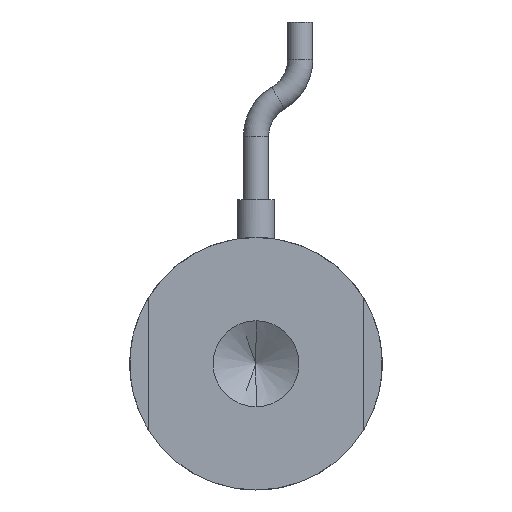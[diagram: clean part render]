
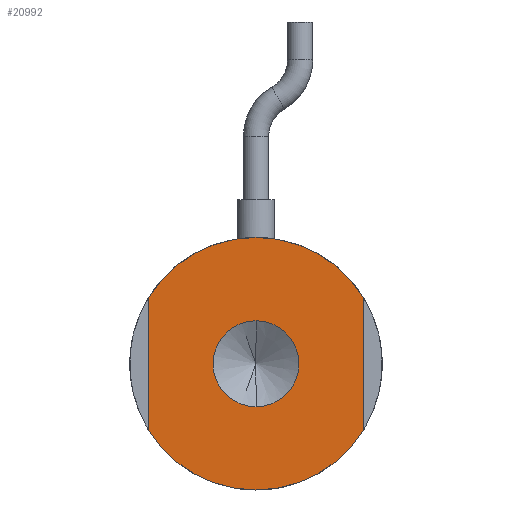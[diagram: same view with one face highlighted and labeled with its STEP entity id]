
A CAD part, front view. The second image highlights one B-rep face of the part: STEP entity #20992.
In plain terms, the highlighted planar face has unit normal (0, -1, 0).
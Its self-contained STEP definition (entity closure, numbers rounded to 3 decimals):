
#57 = DIRECTION ( 'NONE',  ( 0., 0., -1. ) ) ;
#171 = EDGE_CURVE ( 'NONE', #11944, #38820, #26560, .T. ) ;
#534 = DIRECTION ( 'NONE',  ( 0., 0., 1. ) ) ;
#1835 = CARTESIAN_POINT ( 'NONE',  ( 0., 0., 0. ) ) ;
#2597 = ORIENTED_EDGE ( 'NONE', *, *, #11811, .F. ) ;
#4148 = CARTESIAN_POINT ( 'NONE',  ( -8.5, 0., 0. ) ) ;
#5217 = FACE_BOUND ( 'NONE', #39386, .T. ) ;
#5394 = DIRECTION ( 'NONE',  ( 0., 0., -1. ) ) ;
#6270 = AXIS2_PLACEMENT_3D ( 'NONE', #42603, #21446, #534 ) ;
#6437 = ORIENTED_EDGE ( 'NONE', *, *, #8902, .F. ) ;
#7027 = EDGE_CURVE ( 'NONE', #14301, #41897, #18231, .T. ) ;
#7156 = DIRECTION ( 'NONE',  ( 0., 0., 1. ) ) ;
#7263 = CIRCLE ( 'NONE', #31694, 10. ) ;
#7662 = DIRECTION ( 'NONE',  ( 0., 0., 1. ) ) ;
#7794 = CARTESIAN_POINT ( 'NONE',  ( -8.5, 0., -5.268 ) ) ;
#8027 = VECTOR ( 'NONE', #23550, 1000. ) ;
#8650 = CARTESIAN_POINT ( 'NONE',  ( 8.5, 0., 0. ) ) ;
#8902 = EDGE_CURVE ( 'NONE', #41897, #22201, #12745, .T. ) ;
#9493 = VERTEX_POINT ( 'NONE', #42468 ) ;
#9675 = ORIENTED_EDGE ( 'NONE', *, *, #42271, .F. ) ;
#11630 = CARTESIAN_POINT ( 'NONE',  ( 0., 0., 0. ) ) ;
#11811 = EDGE_CURVE ( 'NONE', #22201, #9493, #41243, .T. ) ;
#11838 = CARTESIAN_POINT ( 'NONE',  ( 8.5, 0., 5.268 ) ) ;
#11944 = VERTEX_POINT ( 'NONE', #11838 ) ;
#12745 = LINE ( 'NONE', #4148, #40809 ) ;
#13817 = CARTESIAN_POINT ( 'NONE',  ( 0., 0., 0. ) ) ;
#14118 = DIRECTION ( 'NONE',  ( 0., 1., 0. ) ) ;
#14132 = DIRECTION ( 'NONE',  ( 0., 1., 0. ) ) ;
#14301 = VERTEX_POINT ( 'NONE', #40845 ) ;
#14457 = FACE_OUTER_BOUND ( 'NONE', #27721, .T. ) ;
#14957 = EDGE_CURVE ( 'NONE', #27912, #22770, #41602, .T. ) ;
#15129 = DIRECTION ( 'NONE',  ( 0., 0., 1. ) ) ;
#15661 = AXIS2_PLACEMENT_3D ( 'NONE', #13817, #28001, #7156 ) ;
#15862 = CARTESIAN_POINT ( 'NONE',  ( 0., 0., -3.4 ) ) ;
#18220 = CIRCLE ( 'NONE', #22780, 3.4 ) ;
#18231 = CIRCLE ( 'NONE', #44616, 10. ) ;
#18839 = CARTESIAN_POINT ( 'NONE',  ( -8.5, 0., 5.268 ) ) ;
#20975 = DIRECTION ( 'NONE',  ( 0., -1., 0. ) ) ;
#20992 = ADVANCED_FACE ( 'NONE', ( #5217, #14457 ), #24456, .F. ) ;
#21446 = DIRECTION ( 'NONE',  ( 0., 1., 0. ) ) ;
#22201 = VERTEX_POINT ( 'NONE', #18839 ) ;
#22743 = ORIENTED_EDGE ( 'NONE', *, *, #14957, .F. ) ;
#22770 = VERTEX_POINT ( 'NONE', #32179 ) ;
#22780 = AXIS2_PLACEMENT_3D ( 'NONE', #42125, #20975, #57 ) ;
#23550 = DIRECTION ( 'NONE',  ( 0., 0., -1. ) ) ;
#24456 = PLANE ( 'NONE',  #15661 ) ;
#26023 = ORIENTED_EDGE ( 'NONE', *, *, #27726, .F. ) ;
#26116 = AXIS2_PLACEMENT_3D ( 'NONE', #11630, #36181, #15129 ) ;
#26245 = DIRECTION ( 'NONE',  ( 0., -1., 0. ) ) ;
#26560 = LINE ( 'NONE', #8650, #8027 ) ;
#27721 = EDGE_LOOP ( 'NONE', ( #6437, #43775, #26023, #35443, #9675, #2597 ) ) ;
#27726 = EDGE_CURVE ( 'NONE', #38820, #14301, #40782, .T. ) ;
#27912 = VERTEX_POINT ( 'NONE', #15862 ) ;
#28001 = DIRECTION ( 'NONE',  ( 0., 1., 0. ) ) ;
#30904 = CARTESIAN_POINT ( 'NONE',  ( 8.5, 0., -5.268 ) ) ;
#31694 = AXIS2_PLACEMENT_3D ( 'NONE', #35171, #14132, #38725 ) ;
#32179 = CARTESIAN_POINT ( 'NONE',  ( 0., 0., 3.4 ) ) ;
#33215 = ORIENTED_EDGE ( 'NONE', *, *, #38485, .F. ) ;
#35151 = CARTESIAN_POINT ( 'NONE',  ( 0., 0., 0. ) ) ;
#35171 = CARTESIAN_POINT ( 'NONE',  ( 0., 0., 0. ) ) ;
#35443 = ORIENTED_EDGE ( 'NONE', *, *, #171, .F. ) ;
#36181 = DIRECTION ( 'NONE',  ( 0., 1., 0. ) ) ;
#38485 = EDGE_CURVE ( 'NONE', #22770, #27912, #18220, .T. ) ;
#38714 = DIRECTION ( 'NONE',  ( 0., 0., 1. ) ) ;
#38725 = DIRECTION ( 'NONE',  ( 0., 0., 1. ) ) ;
#38820 = VERTEX_POINT ( 'NONE', #30904 ) ;
#39386 = EDGE_LOOP ( 'NONE', ( #22743, #33215 ) ) ;
#39455 = AXIS2_PLACEMENT_3D ( 'NONE', #1835, #26245, #5394 ) ;
#40782 = CIRCLE ( 'NONE', #26116, 10. ) ;
#40809 = VECTOR ( 'NONE', #7662, 1000. ) ;
#40845 = CARTESIAN_POINT ( 'NONE',  ( 0., 0., -10. ) ) ;
#41243 = CIRCLE ( 'NONE', #6270, 10. ) ;
#41602 = CIRCLE ( 'NONE', #39455, 3.4 ) ;
#41897 = VERTEX_POINT ( 'NONE', #7794 ) ;
#42125 = CARTESIAN_POINT ( 'NONE',  ( 0., 0., 0. ) ) ;
#42271 = EDGE_CURVE ( 'NONE', #9493, #11944, #7263, .T. ) ;
#42468 = CARTESIAN_POINT ( 'NONE',  ( 0., 0., 10. ) ) ;
#42603 = CARTESIAN_POINT ( 'NONE',  ( 0., 0., 0. ) ) ;
#43775 = ORIENTED_EDGE ( 'NONE', *, *, #7027, .F. ) ;
#44616 = AXIS2_PLACEMENT_3D ( 'NONE', #35151, #14118, #38714 ) ;
